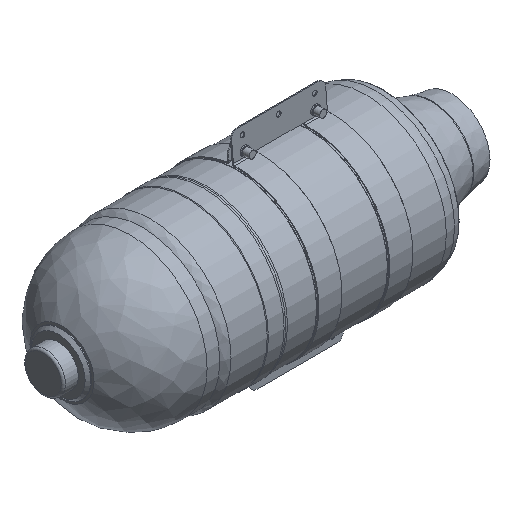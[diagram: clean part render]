
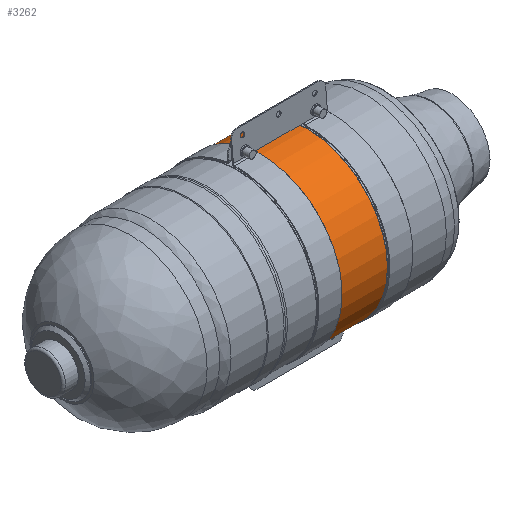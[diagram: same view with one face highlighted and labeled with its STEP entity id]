
A CAD part, isometric view. The second image highlights one B-rep face of the part: STEP entity #3262.
In plain terms, the highlighted cylindrical face has radius 55.6 mm (diameter 111.2 mm), a full revolution.
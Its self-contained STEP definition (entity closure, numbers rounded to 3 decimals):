
#361=FACE_OUTER_BOUND('',#597,.T.);
#597=EDGE_LOOP('',(#2826,#2827,#2828,#2829,#2830,#2831));
#804=LINE('',#5817,#981);
#981=VECTOR('',#4678,55.6);
#1194=CIRCLE('',#3666,55.6);
#1195=CIRCLE('',#3667,55.6);
#1197=CIRCLE('',#3670,55.6);
#1198=CIRCLE('',#3671,55.6);
#1520=VERTEX_POINT('',#5808);
#1521=VERTEX_POINT('',#5809);
#1522=VERTEX_POINT('',#5814);
#1523=VERTEX_POINT('',#5815);
#1968=EDGE_CURVE('',#1520,#1521,#1194,.T.);
#1969=EDGE_CURVE('',#1521,#1520,#1195,.T.);
#1971=EDGE_CURVE('',#1522,#1523,#1197,.T.);
#1972=EDGE_CURVE('',#1522,#1520,#804,.T.);
#1973=EDGE_CURVE('',#1523,#1522,#1198,.T.);
#2826=ORIENTED_EDGE('',*,*,#1971,.F.);
#2827=ORIENTED_EDGE('',*,*,#1972,.T.);
#2828=ORIENTED_EDGE('',*,*,#1968,.T.);
#2829=ORIENTED_EDGE('',*,*,#1969,.T.);
#2830=ORIENTED_EDGE('',*,*,#1972,.F.);
#2831=ORIENTED_EDGE('',*,*,#1973,.F.);
#3099=CYLINDRICAL_SURFACE('',#3669,55.6);
#3262=ADVANCED_FACE('',(#361),#3099,.T.);
#3666=AXIS2_PLACEMENT_3D('',#5810,#4668,#4669);
#3667=AXIS2_PLACEMENT_3D('',#5811,#4670,#4671);
#3669=AXIS2_PLACEMENT_3D('',#5813,#4674,#4675);
#3670=AXIS2_PLACEMENT_3D('',#5816,#4676,#4677);
#3671=AXIS2_PLACEMENT_3D('',#5818,#4679,#4680);
#4668=DIRECTION('center_axis',(1.,0.,0.));
#4669=DIRECTION('ref_axis',(0.,0.,-1.));
#4670=DIRECTION('center_axis',(1.,0.,0.));
#4671=DIRECTION('ref_axis',(0.,0.,-1.));
#4674=DIRECTION('center_axis',(1.,0.,0.));
#4675=DIRECTION('ref_axis',(0.,1.,0.));
#4676=DIRECTION('center_axis',(1.,0.,0.));
#4677=DIRECTION('ref_axis',(0.,0.,-1.));
#4678=DIRECTION('',(-1.,0.,0.));
#4679=DIRECTION('center_axis',(1.,0.,0.));
#4680=DIRECTION('ref_axis',(0.,0.,-1.));
#5808=CARTESIAN_POINT('',(34.26,-55.6,0.));
#5809=CARTESIAN_POINT('',(34.26,0.,55.6));
#5810=CARTESIAN_POINT('Origin',(34.26,0.,0.));
#5811=CARTESIAN_POINT('Origin',(34.26,0.,0.));
#5813=CARTESIAN_POINT('Origin',(50.,0.,0.));
#5814=CARTESIAN_POINT('',(65.74,-55.6,0.));
#5815=CARTESIAN_POINT('',(65.74,0.,55.6));
#5816=CARTESIAN_POINT('Origin',(65.74,0.,0.));
#5817=CARTESIAN_POINT('',(50.,-55.6,0.));
#5818=CARTESIAN_POINT('Origin',(65.74,0.,0.));
